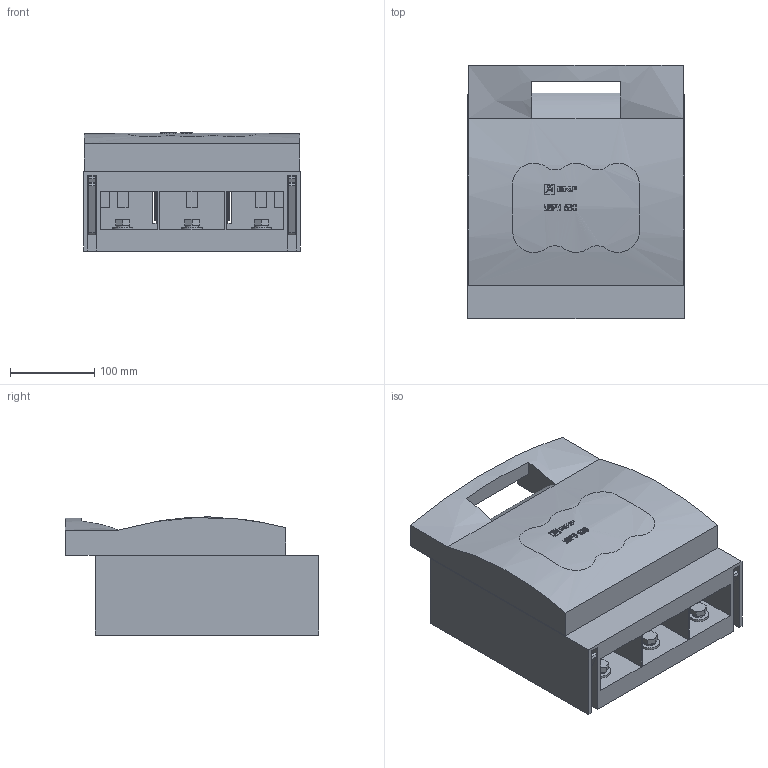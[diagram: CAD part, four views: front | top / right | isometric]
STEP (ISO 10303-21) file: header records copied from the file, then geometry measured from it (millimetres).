
FILE_DESCRIPTION (( 'STEP AP214' ), '1' );
FILE_NAME ('ÓÂÐÝ 630À îòêèäíîãî òèïà ïîä ïðåäîõðàíèòåëè ÏÏÍ (uvre-630).STEP', '2020-08-21T13:38:46', ( '' ), ( '' ), 'SwSTEP 2.0', 'SolidWorks 2019', '' );
FILE_SCHEMA (( 'AUTOMOTIVE_DESIGN' ));
Length unit declared in the file: millimetre
Products named in the file (3): Êðûøêà 630À; ÓÂÐÝ 630À îòêèäíîãî òèïà ïîä ïðåäîõðàíèòåëè ÏÏÍ (uvre-630); Êîðïóñ 630À
Assembly tree (2 placements, depth 2):
  ÓÂÐÝ 630À îòêèäíîãî òèïà ïîä ïðåäîõðàíèòåëè ÏÏÍ (uvre-630)
    Êîðïóñ 630À
    Êðûøêà 630À
Bounding box: 257 x 300.21 x 139.84 mm (x, y, z)
Volume: 4489723.6 mm3; surface area: 781488 mm2
Topology: 2 solids, 2 shells, 646 faces, 1831 edges, 1226 vertices
Faces by surface type: plane 385, bspline 198, cylinder 63
Entity records: 41377 total; most frequent: CARTESIAN_POINT 26246, ORIENTED_EDGE 3662, DIRECTION 2099, EDGE_CURVE 1831, VERTEX_POINT 1226, VECTOR 941, LINE 941, B_SPLINE_CURVE_WITH_KNOTS 764
